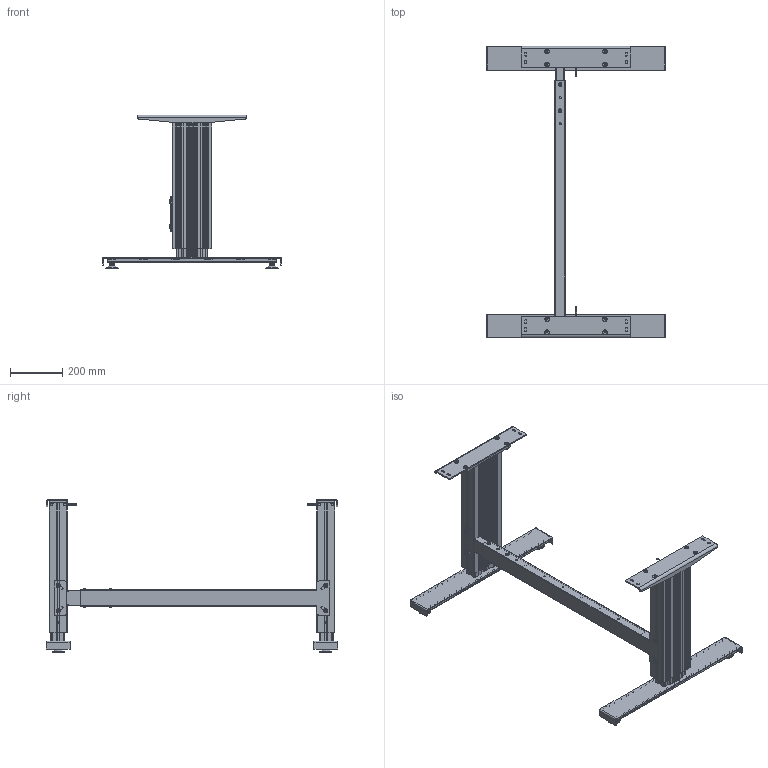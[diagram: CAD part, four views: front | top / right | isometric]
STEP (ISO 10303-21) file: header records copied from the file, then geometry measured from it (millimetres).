
FILE_DESCRIPTION(/* description */ ('Unknown'),/* implementation_level */ '2;1');
FILE_NAME(/* name */ '108.00313_01-Eingefahren',/* time_stamp */ '2022-02-10T09:29:43+01:00',/* author */ ('Unknown'),/* organization */ ('Unknown'),/* preprocessor_version */ 'ST-DEVELOPER v18.1',/* originating_system */ 'Solid Edge',/* authorisation */ 'Unknown');
FILE_SCHEMA (('AUTOMOTIVE_DESIGN {1 0 10303 214 3 1 1}'));
Products named in the file (35): 108.00313; 306.00813_oa_0; 126.00147; 119.00315; 119.00314; 142.00166; 142.00343; 113.00002; 124.00123; 109.00024_oa_1; 115.00008_oa_2; 306.00813_oa_3; 109.00024_oa_4; 115.00008_oa_5; 127.00635; 060339~2; 060340~3; Sechskantmutter M6 DIN 934; Scheibe Ø6,4 DIN 125; Halbrundkopfschraube mit Innensechskant M8x12 ISO 7380-1; Scheibe Ø8,4 DIN 125; Nutenstein M8_montiert; Halbrundkopfschraube mit Innensechskant und Bund M6x16 ISO 7380-2; 127.00545; 127.00548; 127.00566; 127.00567; 127.00548_461_469_Kehlnaht 1_oa_6; 113.00006; 113.00006-ohne Mutter; Mutter M10; 115.00165; 127.00223; 142.00279; 142.00068
Assembly tree (76 placements, depth 4):
  108.00313
    306.00813_oa_0
      126.00147
      119.00315
      119.00314
      142.00166  x4
      142.00343  x2
      113.00002
      124.00123
      109.00024_oa_1
        115.00008_oa_2
    306.00813_oa_3
      126.00147
      119.00315
      119.00314
      142.00166  x4
      142.00343  x2
      113.00002
      124.00123
      109.00024_oa_4
        115.00008_oa_5
    127.00635
      060339~2
      060340~3
      Sechskantmutter M6 DIN 934  x4
      Scheibe Ø6,4 DIN 125  x4
      Halbrundkopfschraube mit Innensechskant M8x12 ISO 7380-1  x4
      Scheibe Ø8,4 DIN 125  x4
      Nutenstein M8_montiert  x4
      Halbrundkopfschraube mit Innensechskant und Bund M6x16 ISO 7380-2  x4
    127.00545  x2
      127.00548
        127.00566
        127.00567
        127.00548_461_469_Kehlnaht 1_oa_6
      113.00006
        113.00006-ohne Mutter
        Mutter M10
    115.00165  x2
      127.00223
      142.00279
      142.00068
Bounding box: 680 x 1110 x 587 mm (x, y, z)
Volume: 6585146.5 mm3; surface area: 3454187.1 mm2
Topology: 102 solids, 102 shells, 6080 faces, 17067 edges, 11263 vertices
Faces by surface type: plane 3316, cylinder 2344, cone 234, torus 108, bspline 74, sphere 4
Full cylindrical faces by diameter (mm): 2.2 x2, 3.242 x4, 3.4 x2, 4 x6, 5 x10, 5.5 x8, 6 x8, 6.4 x4, 6.6 x2, 6.647 x12, 7 x16, 8 x18, 8.376 x10, 8.5 x28, 8.7 x8, 9 x8, 9.5 x4, 10 x4, 12 x4, 12.5 x2, 13.5 x2, 13.6 x4, 14 x4, 15 x4, 16.8 x4, 19 x4, 25 x14, 29 x4, 30 x4, 35 x4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
Entity records: 102406 total; most frequent: CARTESIAN_POINT 17486, ORIENTED_EDGE 15324, DIRECTION 15086, EDGE_CURVE 7662, VERTEX_POINT 5149, AXIS2_PLACEMENT_3D 5058, LINE 4970, VECTOR 4970
